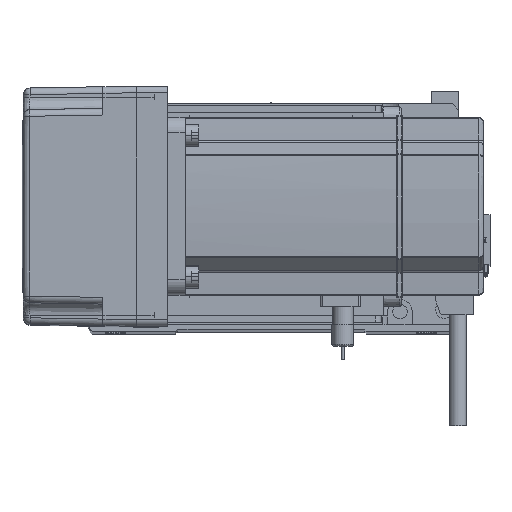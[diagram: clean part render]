
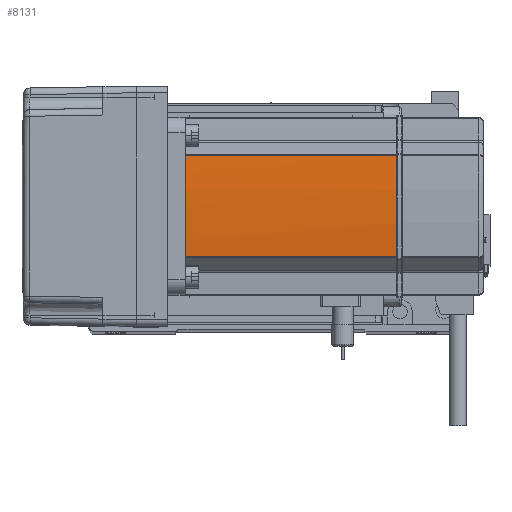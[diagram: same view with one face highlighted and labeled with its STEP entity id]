
A CAD part, top view. The second image highlights one B-rep face of the part: STEP entity #8131.
In plain terms, the highlighted cylindrical face has radius 270 mm (diameter 540 mm), a partial arc.
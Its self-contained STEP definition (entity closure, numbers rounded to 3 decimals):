
#217 = VERTEX_POINT ( 'NONE', #6895 ) ;
#783 = DIRECTION ( 'NONE',  ( 0., 0., -1. ) ) ;
#1103 = DIRECTION ( 'NONE',  ( 0., 0., -1. ) ) ;
#1161 = CARTESIAN_POINT ( 'NONE',  ( -230., 0., 39. ) ) ;
#4837 = VERTEX_POINT ( 'NONE', #11697 ) ;
#5108 = EDGE_CURVE ( 'NONE', #217, #35661, #50487, .T. ) ;
#5486 = ORIENTED_EDGE ( 'NONE', *, *, #36696, .F. ) ;
#5501 = CARTESIAN_POINT ( 'NONE',  ( 40., -0.127, 134. ) ) ;
#6230 = CARTESIAN_POINT ( 'NONE',  ( 39.042, 22.724, 58. ) ) ;
#6895 = CARTESIAN_POINT ( 'NONE',  ( 40., -0.127, 134. ) ) ;
#8131 = ADVANCED_FACE ( 'NONE', ( #53907 ), #29771, .T. ) ;
#9056 = AXIS2_PLACEMENT_3D ( 'NONE', #14597, #45719, #54748 ) ;
#9547 = CARTESIAN_POINT ( 'NONE',  ( -230., 0., 58. ) ) ;
#10505 = VERTEX_POINT ( 'NONE', #52885 ) ;
#11697 = CARTESIAN_POINT ( 'NONE',  ( 39.042, 22.724, 39. ) ) ;
#12036 = VERTEX_POINT ( 'NONE', #55329 ) ;
#12073 = LINE ( 'NONE', #6230, #44622 ) ;
#14597 = CARTESIAN_POINT ( 'NONE',  ( -230., 0., 134. ) ) ;
#18349 = CARTESIAN_POINT ( 'NONE',  ( -230., 0., 134. ) ) ;
#18446 = DIRECTION ( 'NONE',  ( 0., 0., -1. ) ) ;
#21338 = ORIENTED_EDGE ( 'NONE', *, *, #24833, .T. ) ;
#21404 = AXIS2_PLACEMENT_3D ( 'NONE', #9547, #18446, #40295 ) ;
#22617 = DIRECTION ( 'NONE',  ( 0., 0., -1. ) ) ;
#23322 = CARTESIAN_POINT ( 'NONE',  ( 39.042, -22.724, 58. ) ) ;
#23871 = CARTESIAN_POINT ( 'NONE',  ( 40., 0.042, 134. ) ) ;
#24120 = EDGE_CURVE ( 'NONE', #10505, #35661, #51407, .T. ) ;
#24833 = EDGE_CURVE ( 'NONE', #217, #47556, #26888, .T. ) ;
#24850 = CIRCLE ( 'NONE', #28473, 270. ) ;
#26888 = CIRCLE ( 'NONE', #9056, 270. ) ;
#27031 = ORIENTED_EDGE ( 'NONE', *, *, #48523, .T. ) ;
#27840 = DIRECTION ( 'NONE',  ( -1., 0., 0. ) ) ;
#27886 = ORIENTED_EDGE ( 'NONE', *, *, #24120, .T. ) ;
#28121 = CARTESIAN_POINT ( 'NONE',  ( 40., 0.127, 134. ) ) ;
#28473 = AXIS2_PLACEMENT_3D ( 'NONE', #1161, #22617, #27840 ) ;
#28496 = ORIENTED_EDGE ( 'NONE', *, *, #5108, .F. ) ;
#29771 = CYLINDRICAL_SURFACE ( 'NONE', #21404, 270. ) ;
#33220 = LINE ( 'NONE', #23322, #49106 ) ;
#35661 = VERTEX_POINT ( 'NONE', #51510 ) ;
#36451 = CARTESIAN_POINT ( 'NONE',  ( 40., -0.042, 134. ) ) ;
#36696 = EDGE_CURVE ( 'NONE', #4837, #12036, #24850, .T. ) ;
#37735 = DIRECTION ( 'NONE',  ( 0., 0., 1. ) ) ;
#39022 = AXIS2_PLACEMENT_3D ( 'NONE', #18349, #783, #48494 ) ;
#40295 = DIRECTION ( 'NONE',  ( -1., 0., 0. ) ) ;
#40565 = EDGE_CURVE ( 'NONE', #4837, #10505, #12073, .T. ) ;
#41266 = ORIENTED_EDGE ( 'NONE', *, *, #40565, .T. ) ;
#44622 = VECTOR ( 'NONE', #37735, 1000. ) ;
#45283 = CARTESIAN_POINT ( 'NONE',  ( 39.042, -22.724, 134. ) ) ;
#45719 = DIRECTION ( 'NONE',  ( 0., 0., -1. ) ) ;
#47556 = VERTEX_POINT ( 'NONE', #45283 ) ;
#48494 = DIRECTION ( 'NONE',  ( -1., 0., 0. ) ) ;
#48523 = EDGE_CURVE ( 'NONE', #47556, #12036, #33220, .T. ) ;
#49106 = VECTOR ( 'NONE', #1103, 1000. ) ;
#50487 = B_SPLINE_CURVE_WITH_KNOTS ( 'NONE', 3,
 ( #5501, #36451, #23871, #28121 ),
 .UNSPECIFIED., .F., .F.,
 ( 4, 4 ),
 ( 0., 1. ),
 .UNSPECIFIED. ) ;
#51407 = CIRCLE ( 'NONE', #39022, 270. ) ;
#51510 = CARTESIAN_POINT ( 'NONE',  ( 40., 0.127, 134. ) ) ;
#52885 = CARTESIAN_POINT ( 'NONE',  ( 39.042, 22.724, 134. ) ) ;
#53907 = FACE_OUTER_BOUND ( 'NONE', #56539, .T. ) ;
#54748 = DIRECTION ( 'NONE',  ( -1., 0., 0. ) ) ;
#55329 = CARTESIAN_POINT ( 'NONE',  ( 39.042, -22.724, 39. ) ) ;
#56539 = EDGE_LOOP ( 'NONE', ( #27031, #5486, #41266, #27886, #28496, #21338 ) ) ;
